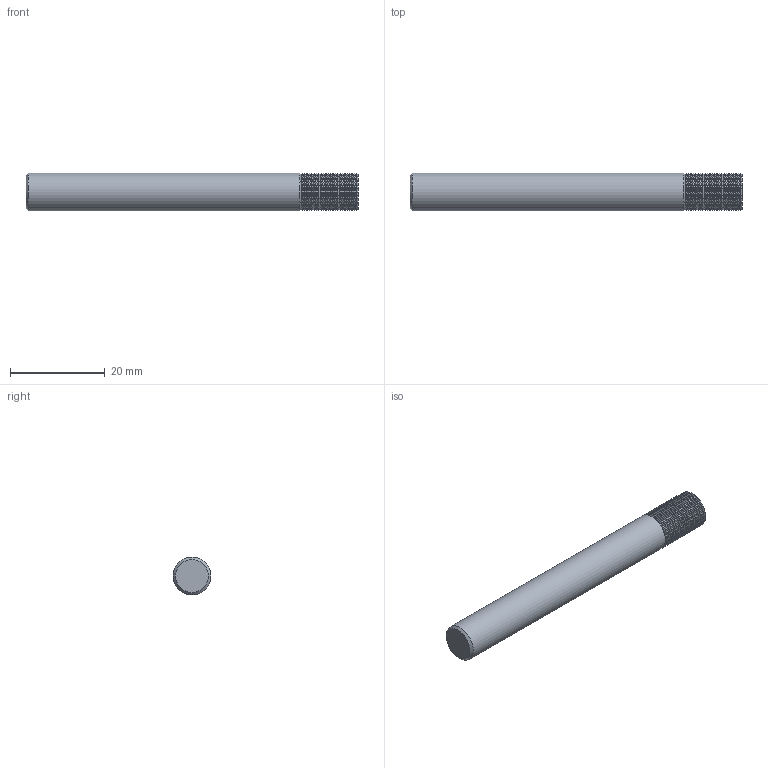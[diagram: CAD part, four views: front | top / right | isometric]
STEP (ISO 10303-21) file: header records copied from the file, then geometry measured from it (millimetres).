
FILE_DESCRIPTION(/* description */ (''),/* implementation_level */ '2;1');
FILE_NAME(/* name */ '00035564-TDM',/* time_stamp */ '2024-02-13T10:52:09+01:00',/* author */ (''),/* organization */ (''),/* preprocessor_version */ 'ST-DEVELOPER v16.5',/* originating_system */ 'HiCAD 2017 2201.0 Build 268',/* authorisation */ '');
FILE_SCHEMA (('AUTOMOTIVE_DESIGN { 1 0 10303 214 1 1 1 1 }'));
Length unit declared in the file: millimetre
Products named in the file (3): Root; ROTATIONSTEIL_2
Assembly tree (2 placements, depth 3):
  Root
    ROTATIONSTEIL_2
      ROTATIONSTEIL_2
Bounding box: 70 x 8 x 8 mm (x, y, z)
Volume: 3460.6 mm3; surface area: 2097.4 mm2
Topology: 2 solids, 2 shells, 154 faces, 304 edges, 154 vertices
Faces by surface type: cylinder 51, cone 50, torus 49, plane 4
Full cylindrical faces by diameter (mm): 7.404 x26, 7.95 x24, 8 x1
Entity records: 4644 total; most frequent: DIRECTION 620, CARTESIAN_POINT 462, AXIS2_PLACEMENT_3D 310, PRESENTATION_STYLE_ASSIGNMENT 306, COLOUR_RGB 306, DRAUGHTING_PRE_DEFINED_CURVE_FONT 304, CURVE_STYLE 304, OVER_RIDING_STYLED_ITEM 304
